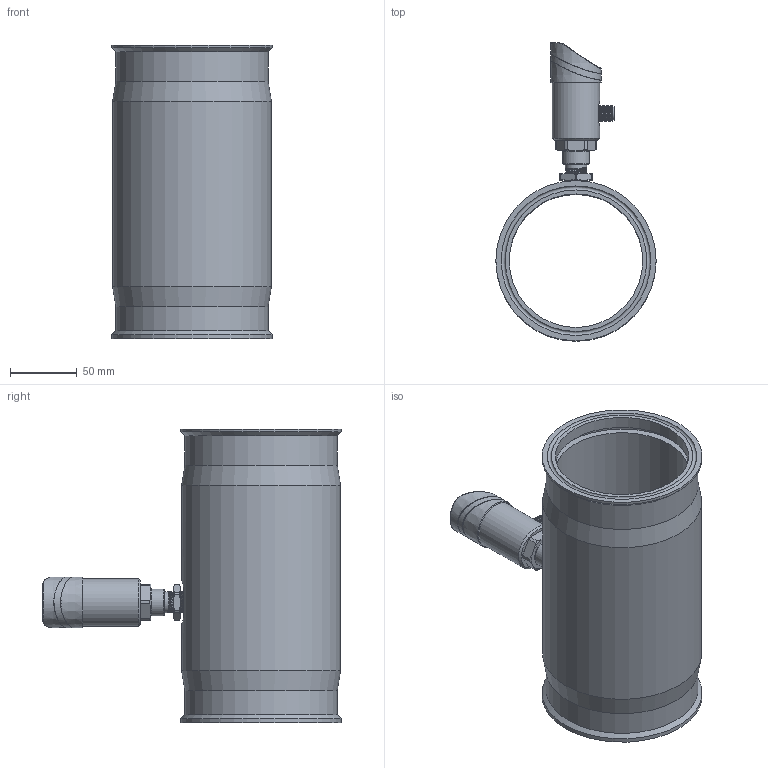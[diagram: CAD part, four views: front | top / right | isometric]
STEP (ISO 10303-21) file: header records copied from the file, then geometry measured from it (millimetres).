
FILE_DESCRIPTION( (''), '2;1');
FILE_NAME( 'QTKE_DN100_tri-clamp.step', '2024-10-15T08:46:16+08:00', (''), (''), '', '', '');
FILE_SCHEMA (('AUTOMOTIVE_DESIGN { 1 0 10303 214 3 1 1 1 }'));
Length unit declared in the file: millimetre
Products named in the file (1): QTKE DN100_tri-clamp
Bounding box: 120 x 223.5 x 220 mm (x, y, z)
Volume: 711552 mm3; surface area: 193375.8 mm2
Topology: 5 solids, 6 shells, 717 faces, 1859 edges, 1215 vertices
Faces by surface type: plane 267, extrusion 141, cylinder 133, cone 73, bspline 58, torus 34, sphere 11
Full cylindrical faces by diameter (mm): 1.689 x1, 2.7 x3, 12 x1, 15.9 x1, 16.5 x2, 20 x1, 23 x3, 26 x5, 35.5 x1, 37.001 x1, 100 x3, 110 x2, 114 x2, 119 x1, 120 x2
Entity records: 31438 total; most frequent: CARTESIAN_POINT 13685, ORIENTED_EDGE 3498, DIRECTION 2793, EDGE_CURVE 1749, VERTEX_POINT 1173, VECTOR 949, AXIS2_PLACEMENT_3D 922, EDGE_LOOP 852
